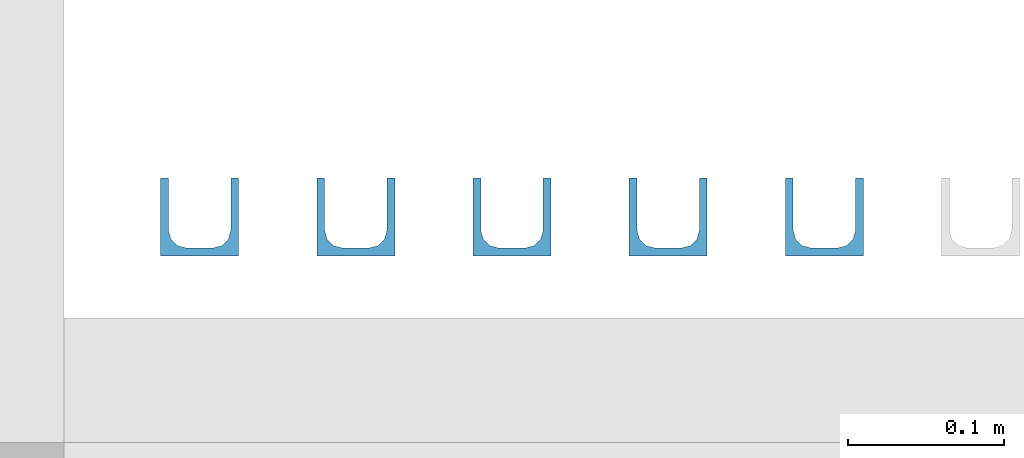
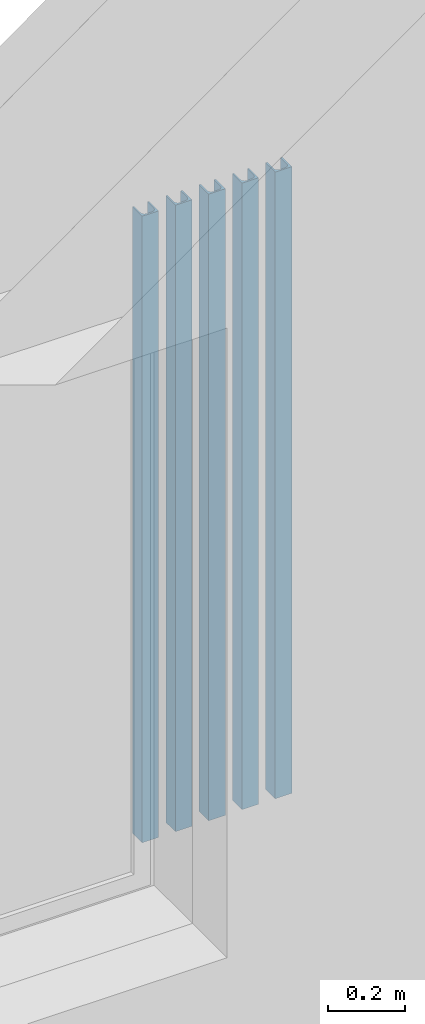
# One storey, part 32 of 100: 5 discrete accessories.
"""IFC2X3 building model written with IfcOpenShell, lengths in millimetres."""

from ifc_helpers import new_model, entity, si_unit, converted_unit, derived_unit, money_unit, direction, frame, origin_with_axes, place, context, subcontext, project, spatial, faceted_brep, source, transform, mapped, material, type_object, element, save


model = new_model("IFC2X3")

# Units and contexts
model_context = context("Model", 3, precision=0.01, world=origin_with_axes(), true_north=direction((0.0, 1.0)))
body_context = subcontext(model_context, "Body", "Model", "MODEL_VIEW")
ifc_project = project(units=[si_unit("LENGTHUNIT", "METRE", prefix="MILLI"), si_unit("AREAUNIT", "SQUARE_METRE"), si_unit("VOLUMEUNIT", "CUBIC_METRE"), converted_unit("PLANEANGLEUNIT", "DEGREE", entity("IfcPlaneAngleMeasure", 0.0174532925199), si_unit("PLANEANGLEUNIT", "RADIAN"), dimensions=[0, 0, 0, 0, 0, 0, 0]), si_unit("SOLIDANGLEUNIT", "STERADIAN"), money_unit("EUR"), converted_unit("TIMEUNIT", "Year", entity("IfcTimeMeasure", 31556926.0), si_unit("TIMEUNIT", "SECOND"), dimensions=[0, 0, 1, 0, 0, 0, 0]), si_unit("MASSUNIT", "GRAM", prefix="KILO"), si_unit("THERMODYNAMICTEMPERATUREUNIT", "DEGREE_CELSIUS"), si_unit("LUMINOUSINTENSITYUNIT", "LUMEN"), si_unit("ENERGYUNIT", "JOULE", prefix="MEGA"), derived_unit("THERMALCONDUCTANCEUNIT", [(si_unit("POWERUNIT", "WATT"), 1), (si_unit("LENGTHUNIT", "METRE"), -1), (si_unit("THERMODYNAMICTEMPERATUREUNIT", "KELVIN"), -1)]), derived_unit("SPECIFICHEATCAPACITYUNIT", [(si_unit("ENERGYUNIT", "JOULE"), 1), (si_unit("MASSUNIT", "GRAM", prefix="KILO"), -1), (si_unit("THERMODYNAMICTEMPERATUREUNIT", "KELVIN"), -1)]), derived_unit("MASSDENSITYUNIT", [(si_unit("MASSUNIT", "GRAM", prefix="KILO"), 1), (si_unit("VOLUMEUNIT", "CUBIC_METRE"), -1)])], contexts=[model_context])

# Site, building, storey
site_placement = place(None, origin_with_axes())
site = spatial("IfcSite", under=ifc_project, at=site_placement, Name="Politse- ja Piirivalveameti ning Päästeameti ühishoone", CompositionType="ELEMENT")
building_placement = place(site_placement, origin_with_axes())
building = spatial("IfcBuilding", under=site, at=building_placement, Name="Politse- ja Piirivalveameti ning Päästeameti ühishoone", CompositionType="ELEMENT")
storey_placement = place(building_placement, frame((0.0, 0.0, 3800.0), z_axis=(0.0, 0.0, 1.0), x_axis=(1.0, 0.0, 0.0)))
storey = spatial("IfcBuildingStorey", under=building, at=storey_placement, Name="Teine korrus", CompositionType="ELEMENT", Elevation=3800.0)

# Discrete accessories
ifc_material = material(Name="ET-05_Teras")
discrete_accessory_type = type_object("IfcDiscreteAccessoryType", Name="UAP Column 23")
shared_shape = source(origin_with_axes(), body_context, "Body", "Brep", [
    faceted_brep([(-25.0, -25.0, 0.0), (-25.0, -25.0, 1990.0), (-25.0, -20.0, 1990.0), (-25.0, -20.0, 0.0), (25.0, -25.0, 0.0), (25.0, -25.0, 1990.0), (25.0, 25.0, 1990.0), (-25.0, 25.0, 1990.0), (-25.0, 20.0, 1990.0), (8.5, 20.0, 1990.0), (14.25, 18.4592921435, 1990.0), (18.4592921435, 14.25, 1990.0), (20.0, 8.5, 1990.0), (20.0, -8.5, 1990.0), (18.4592921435, -14.25, 1990.0), (14.25, -18.4592921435, 1990.0), (8.5, -20.0, 1990.0), (8.5, -20.0, 0.0), (14.25, -18.4592921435, 0.0), (18.4592921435, -14.25, 0.0), (20.0, -8.5, 0.0), (20.0, 8.5, 0.0), (18.4592921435, 14.25, 0.0), (14.25, 18.4592921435, 0.0), (8.5, 20.0, 0.0), (-25.0, 20.0, 0.0), (-25.0, 25.0, 0.0), (25.0, 25.0, 0.0)], [[[0, 1, 2, 3]], [[4, 5, 1, 0]], [[1, 5, 6, 7, 8, 9, 10, 11, 12, 13, 14, 15, 16, 2]], [[3, 2, 16, 17]], [[0, 3, 17, 18, 19, 20, 21, 22, 23, 24, 25, 26, 27, 4]], [[27, 6, 5, 4]], [[26, 7, 6, 27]], [[25, 8, 7, 26]], [[24, 9, 8, 25]], [[23, 10, 9, 24]], [[22, 11, 10, 23]], [[21, 12, 11, 22]], [[20, 13, 12, 21]], [[19, 14, 13, 20]], [[18, 15, 14, 19]], [[17, 16, 15, 18]]]),
])
for number, where, z_axis, x_axis in (
    (1, (50321.667837, 21574.5960385, 810.000049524), (0.0, 0.0, 1.0), (1.30049800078e-07, -1.0, 0.0)),
    (2, (50421.667837, 21574.5960515, 810.000049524), (0.0, 0.0, 1.0), (1.30049800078e-07, -1.0, 0.0)),
    (3, (50521.667837, 21574.5960645, 810.000049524), (0.0, 0.0, 1.0), (1.30049800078e-07, -1.0, 0.0)),
    (4, (50121.667837, 21574.5960125, 810.000049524), (0.0, 0.0, 1.0), (1.30049800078e-07, -1.0, 0.0)),
    (5, (50221.667837, 21574.5960255, 810.000049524), (0.0, 0.0, 1.0), (1.30049800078e-07, -1.0, 0.0)),
):
    element("IfcDiscreteAccessory", number, at=place(storey_placement, frame(where, z_axis=z_axis, x_axis=x_axis)), inside=storey, type_object=discrete_accessory_type, material=ifc_material, Name="Fassaadiribid", context=body_context, shape_type="MappedRepresentation", body=[
        mapped(shared_shape, transform((0.0, 0.0, 0.0))),
    ])

save(model, "model.ifc")
